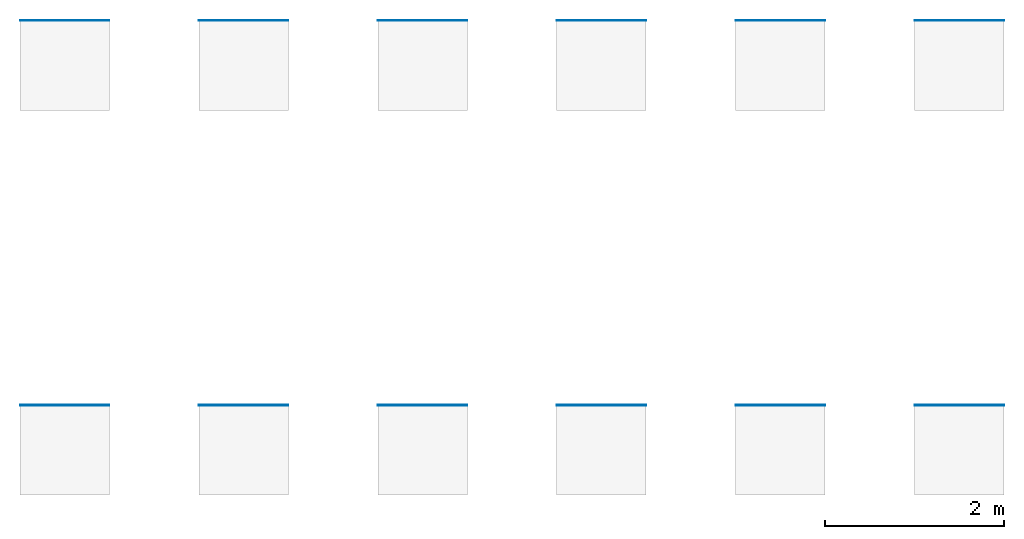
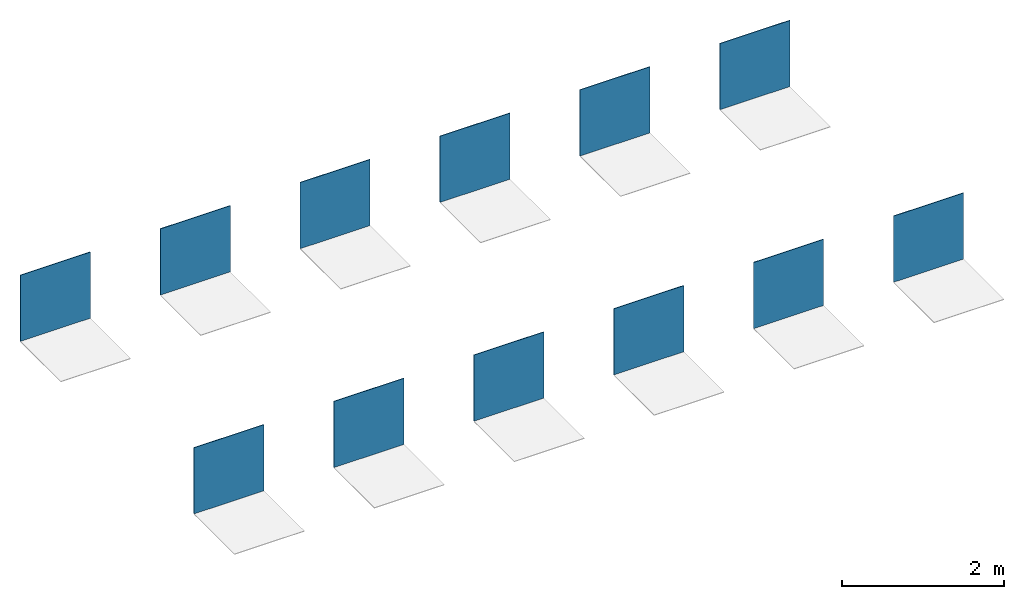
# One storey, part 1 of 2: 12 walls.
"""IFC2X3 building model written with IfcOpenShell, lengths in millimetres."""

from ifc_helpers import new_model, entity, si_unit, converted_unit, derived_unit, direction, frame, frame_2d, origin, place, context, subcontext, project, spatial, rectangle, extrude, material, layer, layer_set, layer_usage, type_object, element, save


model = new_model("IFC2X3")

# Units and contexts
model_context = context("Model", 3, precision=0.01, world=origin(), true_north=direction((6.12303176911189e-17, 1.0)))
body_context = subcontext(model_context, "Body", "Model", "MODEL_VIEW")
ifc_project = project(units=[si_unit("LENGTHUNIT", "METRE", prefix="MILLI"), si_unit("AREAUNIT", "SQUARE_METRE"), si_unit("VOLUMEUNIT", "CUBIC_METRE"), converted_unit("PLANEANGLEUNIT", "DEGREE", entity("IfcRatioMeasure", 0.0174532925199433), si_unit("PLANEANGLEUNIT", "RADIAN"), dimensions=[0, 0, 0, 0, 0, 0, 0]), si_unit("MASSUNIT", "GRAM", prefix="KILO"), derived_unit("MASSDENSITYUNIT", [(si_unit("MASSUNIT", "GRAM", prefix="KILO"), 1), (si_unit("LENGTHUNIT", "METRE"), -3)]), derived_unit("MOMENTOFINERTIAUNIT", [(si_unit("LENGTHUNIT", "METRE"), 4)]), si_unit("TIMEUNIT", "SECOND"), si_unit("FREQUENCYUNIT", "HERTZ"), si_unit("THERMODYNAMICTEMPERATUREUNIT", "DEGREE_CELSIUS"), derived_unit("THERMALTRANSMITTANCEUNIT", [(si_unit("MASSUNIT", "GRAM", prefix="KILO"), 1), (si_unit("THERMODYNAMICTEMPERATUREUNIT", "KELVIN"), -1), (si_unit("TIMEUNIT", "SECOND"), -3)]), derived_unit("VOLUMETRICFLOWRATEUNIT", [(si_unit("LENGTHUNIT", "METRE"), 3), (si_unit("TIMEUNIT", "SECOND"), -1)]), si_unit("ELECTRICCURRENTUNIT", "AMPERE"), si_unit("ELECTRICVOLTAGEUNIT", "VOLT"), si_unit("POWERUNIT", "WATT"), si_unit("FORCEUNIT", "NEWTON", prefix="KILO"), si_unit("ILLUMINANCEUNIT", "LUX"), si_unit("LUMINOUSFLUXUNIT", "LUMEN"), si_unit("LUMINOUSINTENSITYUNIT", "CANDELA"), derived_unit("USERDEFINED", [(si_unit("MASSUNIT", "GRAM", prefix="KILO"), -1), (si_unit("LENGTHUNIT", "METRE"), -2), (si_unit("TIMEUNIT", "SECOND"), 3), (si_unit("LUMINOUSFLUXUNIT", "LUMEN"), 1)]), derived_unit("LINEARVELOCITYUNIT", [(si_unit("LENGTHUNIT", "METRE"), 1), (si_unit("TIMEUNIT", "SECOND"), -1)]), si_unit("PRESSUREUNIT", "PASCAL"), derived_unit("USERDEFINED", [(si_unit("LENGTHUNIT", "METRE"), -2), (si_unit("MASSUNIT", "GRAM", prefix="KILO"), 1), (si_unit("TIMEUNIT", "SECOND"), -2)]), derived_unit("LINEARFORCEUNIT", [(si_unit("MASSUNIT", "GRAM", prefix="KILO"), 1), (si_unit("LENGTHUNIT", "METRE"), 1), (si_unit("TIMEUNIT", "SECOND"), -2), (si_unit("LENGTHUNIT", "METRE"), -1)]), derived_unit("PLANARFORCEUNIT", [(si_unit("MASSUNIT", "GRAM", prefix="KILO"), 1), (si_unit("LENGTHUNIT", "METRE"), 1), (si_unit("TIMEUNIT", "SECOND"), -2), (si_unit("LENGTHUNIT", "METRE"), -2)])], contexts=[model_context])

# Site, building, storey
site_placement = place(None, origin())
site = spatial("IfcSite", under=ifc_project, at=site_placement, Name="Default", CompositionType="ELEMENT")
building_placement = place(site_placement, origin())
building = spatial("IfcBuilding", under=site, at=building_placement, CompositionType="ELEMENT")
storey_placement = place(building_placement, origin())
storey = spatial("IfcBuildingStorey", under=building, at=storey_placement, Name="Level 1", CompositionType="ELEMENT", Elevation=0.0)

# Walls
ifc_material_1 = material(Name="REVIGRÉS-OMNISTONE-HEXAGON-60x60-MATTRECT-BONE")
ifc_layer_1 = layer(ifc_material_1, 9.8)
ifc_layer_set_1 = layer_set([ifc_layer_1], Name="Basic Wall:REVIGRÉS-OMNISTONE-HEXAGON-60X60-MATTRECT-BONE")
ifc_layer_usage_1 = layer_usage(ifc_layer_set_1, "AXIS2", "POSITIVE", -4.9)
wall_type_1 = type_object("IfcWallType", Name="Basic Wall:REVIGRÉS-OMNISTONE-HEXAGON-60X60-MATTRECT-BONE", PredefinedType="STANDARD", material=ifc_layer_set_1)
wall_1_placement = place(storey_placement, frame((60108.2238843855, 18816.1034685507, 0.0)))
element("IfcWallStandardCase", 1, at=wall_1_placement, inside=storey, type_object=wall_type_1, material=ifc_layer_usage_1, Name="Basic Wall:REVIGRÉS-OMNISTONE-HEXAGON-60X60-MATTRECT-BONE", ObjectType="Basic Wall:REVIGRÉS-OMNISTONE-HEXAGON-60X60-MATTRECT-BONE", context=body_context, shape_type="SweptSolid", body=[
    extrude(rectangle(XDim=999.999999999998, YDim=9.8000000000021, at=frame_2d((499.999999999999, 5.41344746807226e-13), x_axis=(-1.0, 0.0))), origin(), (0.0, 0.0, 1.0), 1000.0),
])
ifc_material_2 = material(Name="REVIGRÉS-OMNISTONE-HEXAGON-60x60-SOFT-BONE")
ifc_layer_2 = layer(ifc_material_2, 9.8)
ifc_layer_set_2 = layer_set([ifc_layer_2], Name="Basic Wall:REVIGRÉS-OMNISTONE-HEXAGON-60X60-SOFT-BONE")
ifc_layer_usage_2 = layer_usage(ifc_layer_set_2, "AXIS2", "POSITIVE", -4.9)
wall_type_2 = type_object("IfcWallType", Name="Basic Wall:REVIGRÉS-OMNISTONE-HEXAGON-60X60-SOFT-BONE", PredefinedType="STANDARD", material=ifc_layer_set_2)
wall_2_placement = place(storey_placement, frame((62108.2238843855, 18816.1034685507, 0.0)))
element("IfcWallStandardCase", 2, at=wall_2_placement, inside=storey, type_object=wall_type_2, material=ifc_layer_usage_2, Name="Basic Wall:REVIGRÉS-OMNISTONE-HEXAGON-60X60-SOFT-BONE", ObjectType="Basic Wall:REVIGRÉS-OMNISTONE-HEXAGON-60X60-SOFT-BONE", context=body_context, shape_type="SweptSolid", body=[
    extrude(rectangle(XDim=999.999999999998, YDim=9.8000000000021, at=frame_2d((499.999999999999, 5.41344746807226e-13), x_axis=(-1.0, 0.0))), origin(), (0.0, 0.0, 1.0), 1000.0),
])
ifc_material_3 = material(Name="REVIGRÉS-OMNISTONE-HEXAGON-60x60-MATTRECT-ICE")
ifc_layer_3 = layer(ifc_material_3, 9.8)
ifc_layer_set_3 = layer_set([ifc_layer_3], Name="Basic Wall:REVIGRÉS-OMNISTONE-HEXAGON-60X60-MATTRECT-ICE")
ifc_layer_usage_3 = layer_usage(ifc_layer_set_3, "AXIS2", "POSITIVE", -4.9)
wall_type_3 = type_object("IfcWallType", Name="Basic Wall:REVIGRÉS-OMNISTONE-HEXAGON-60X60-MATTRECT-ICE", PredefinedType="STANDARD", material=ifc_layer_set_3)
wall_3_placement = place(storey_placement, frame((64108.2238843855, 18816.1034685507, 0.0)))
element("IfcWallStandardCase", 3, at=wall_3_placement, inside=storey, type_object=wall_type_3, material=ifc_layer_usage_3, Name="Basic Wall:REVIGRÉS-OMNISTONE-HEXAGON-60X60-MATTRECT-ICE", ObjectType="Basic Wall:REVIGRÉS-OMNISTONE-HEXAGON-60X60-MATTRECT-ICE", context=body_context, shape_type="SweptSolid", body=[
    extrude(rectangle(XDim=999.999999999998, YDim=9.8000000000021, at=frame_2d((499.999999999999, 5.41344746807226e-13), x_axis=(-1.0, 0.0))), origin(), (0.0, 0.0, 1.0), 1000.0),
])
ifc_material_4 = material(Name="REVIGRÉS-OMNISTONE-HEXAGON-60x60-SOFT-ICE")
ifc_layer_4 = layer(ifc_material_4, 9.8)
ifc_layer_set_4 = layer_set([ifc_layer_4], Name="Basic Wall:REVIGRÉS-OMNISTONE-HEXAGON-60X60-SOFT-ICE")
ifc_layer_usage_4 = layer_usage(ifc_layer_set_4, "AXIS2", "POSITIVE", -4.9)
wall_type_4 = type_object("IfcWallType", Name="Basic Wall:REVIGRÉS-OMNISTONE-HEXAGON-60X60-SOFT-ICE", PredefinedType="STANDARD", material=ifc_layer_set_4)
wall_4_placement = place(storey_placement, frame((66108.2238843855, 18816.1034685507, 0.0)))
element("IfcWallStandardCase", 4, at=wall_4_placement, inside=storey, type_object=wall_type_4, material=ifc_layer_usage_4, Name="Basic Wall:REVIGRÉS-OMNISTONE-HEXAGON-60X60-SOFT-ICE", ObjectType="Basic Wall:REVIGRÉS-OMNISTONE-HEXAGON-60X60-SOFT-ICE", context=body_context, shape_type="SweptSolid", body=[
    extrude(rectangle(XDim=999.999999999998, YDim=9.8000000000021, at=frame_2d((499.999999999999, 5.41344746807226e-13), x_axis=(-1.0, 0.0))), origin(), (0.0, 0.0, 1.0), 1000.0),
])
ifc_material_5 = material(Name="REVIGRÉS-OMNISTONE-HEXAGON-60x60-MATTRECT-IRON")
ifc_layer_5 = layer(ifc_material_5, 9.8)
ifc_layer_set_5 = layer_set([ifc_layer_5], Name="Basic Wall:REVIGRÉS-OMNISTONE-HEXAGON-60X60-MATTRECT-IRON")
ifc_layer_usage_5 = layer_usage(ifc_layer_set_5, "AXIS2", "POSITIVE", -4.9)
wall_type_5 = type_object("IfcWallType", Name="Basic Wall:REVIGRÉS-OMNISTONE-HEXAGON-60X60-MATTRECT-IRON", PredefinedType="STANDARD", material=ifc_layer_set_5)
wall_5_placement = place(storey_placement, frame((68108.2238843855, 18816.1034685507, 0.0)))
element("IfcWallStandardCase", 5, at=wall_5_placement, inside=storey, type_object=wall_type_5, material=ifc_layer_usage_5, Name="Basic Wall:REVIGRÉS-OMNISTONE-HEXAGON-60X60-MATTRECT-IRON", ObjectType="Basic Wall:REVIGRÉS-OMNISTONE-HEXAGON-60X60-MATTRECT-IRON", context=body_context, shape_type="SweptSolid", body=[
    extrude(rectangle(XDim=999.999999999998, YDim=9.8000000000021, at=frame_2d((499.999999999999, 5.41344746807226e-13), x_axis=(-1.0, 0.0))), origin(), (0.0, 0.0, 1.0), 1000.0),
])
ifc_material_6 = material(Name="REVIGRÉS-OMNISTONE-HEXAGON-60x60-SOFT-IRON")
ifc_layer_6 = layer(ifc_material_6, 9.8)
ifc_layer_set_6 = layer_set([ifc_layer_6], Name="Basic Wall:REVIGRÉS-OMNISTONE-HEXAGON-60X60-SOFT-IRON")
ifc_layer_usage_6 = layer_usage(ifc_layer_set_6, "AXIS2", "POSITIVE", -4.9)
wall_type_6 = type_object("IfcWallType", Name="Basic Wall:REVIGRÉS-OMNISTONE-HEXAGON-60X60-SOFT-IRON", PredefinedType="STANDARD", material=ifc_layer_set_6)
wall_6_placement = place(storey_placement, frame((70108.2238843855, 18816.1034685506, 0.0)))
element("IfcWallStandardCase", 6, at=wall_6_placement, inside=storey, type_object=wall_type_6, material=ifc_layer_usage_6, Name="Basic Wall:REVIGRÉS-OMNISTONE-HEXAGON-60X60-SOFT-IRON", ObjectType="Basic Wall:REVIGRÉS-OMNISTONE-HEXAGON-60X60-SOFT-IRON", context=body_context, shape_type="SweptSolid", body=[
    extrude(rectangle(XDim=999.999999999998, YDim=9.8000000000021, at=frame_2d((499.999999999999, 5.41344746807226e-13), x_axis=(-1.0, 0.0))), origin(), (0.0, 0.0, 1.0), 1000.0),
])
ifc_material_7 = material(Name="REVIGRÉS-OMNISTONE-HEXAGON-60x60-MATTRECT-JET")
ifc_layer_7 = layer(ifc_material_7, 9.8)
ifc_layer_set_7 = layer_set([ifc_layer_7], Name="Basic Wall:REVIGRÉS-OMNISTONE-HEXAGON-60X60-MATTRECT-JET")
ifc_layer_usage_7 = layer_usage(ifc_layer_set_7, "AXIS2", "POSITIVE", -4.9)
wall_type_7 = type_object("IfcWallType", Name="Basic Wall:REVIGRÉS-OMNISTONE-HEXAGON-60X60-MATTRECT-JET", PredefinedType="STANDARD", material=ifc_layer_set_7)
wall_7_placement = place(storey_placement, frame((60108.2238843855, 14516.1034685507, 0.0)))
element("IfcWallStandardCase", 7, at=wall_7_placement, inside=storey, type_object=wall_type_7, material=ifc_layer_usage_7, Name="Basic Wall:REVIGRÉS-OMNISTONE-HEXAGON-60X60-MATTRECT-JET", ObjectType="Basic Wall:REVIGRÉS-OMNISTONE-HEXAGON-60X60-MATTRECT-JET", context=body_context, shape_type="SweptSolid", body=[
    extrude(rectangle(XDim=999.999999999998, YDim=9.8000000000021, at=frame_2d((499.999999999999, 5.41344746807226e-13), x_axis=(-1.0, 0.0))), origin(), (0.0, 0.0, 1.0), 1000.0),
])
ifc_material_8 = material(Name="REVIGRÉS-OMNISTONE-HEXAGON-60x60-SOFT-JET")
ifc_layer_8 = layer(ifc_material_8, 9.8)
ifc_layer_set_8 = layer_set([ifc_layer_8], Name="Basic Wall:REVIGRÉS-OMNISTONE-HEXAGON-60X60-SOFT-JET")
ifc_layer_usage_8 = layer_usage(ifc_layer_set_8, "AXIS2", "POSITIVE", -4.9)
wall_type_8 = type_object("IfcWallType", Name="Basic Wall:REVIGRÉS-OMNISTONE-HEXAGON-60X60-SOFT-JET", PredefinedType="STANDARD", material=ifc_layer_set_8)
wall_8_placement = place(storey_placement, frame((62108.2238843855, 14516.1034685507, 0.0)))
element("IfcWallStandardCase", 8, at=wall_8_placement, inside=storey, type_object=wall_type_8, material=ifc_layer_usage_8, Name="Basic Wall:REVIGRÉS-OMNISTONE-HEXAGON-60X60-SOFT-JET", ObjectType="Basic Wall:REVIGRÉS-OMNISTONE-HEXAGON-60X60-SOFT-JET", context=body_context, shape_type="SweptSolid", body=[
    extrude(rectangle(XDim=999.999999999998, YDim=9.8000000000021, at=frame_2d((499.999999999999, 5.41344746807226e-13), x_axis=(-1.0, 0.0))), origin(), (0.0, 0.0, 1.0), 1000.0),
])
ifc_material_9 = material(Name="REVIGRÉS-OMNISTONE-HEXAGON-60x60-MATTRECT-PLATINA")
ifc_layer_9 = layer(ifc_material_9, 9.8)
ifc_layer_set_9 = layer_set([ifc_layer_9], Name="Basic Wall:REVIGRÉS-OMNISTONE-HEXAGON-60X60-MATTRECT-PLATINA")
ifc_layer_usage_9 = layer_usage(ifc_layer_set_9, "AXIS2", "POSITIVE", -4.9)
wall_type_9 = type_object("IfcWallType", Name="Basic Wall:REVIGRÉS-OMNISTONE-HEXAGON-60X60-MATTRECT-PLATINA", PredefinedType="STANDARD", material=ifc_layer_set_9)
wall_9_placement = place(storey_placement, frame((64108.2238843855, 14516.1034685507, 0.0)))
element("IfcWallStandardCase", 9, at=wall_9_placement, inside=storey, type_object=wall_type_9, material=ifc_layer_usage_9, Name="Basic Wall:REVIGRÉS-OMNISTONE-HEXAGON-60X60-MATTRECT-PLATINA", ObjectType="Basic Wall:REVIGRÉS-OMNISTONE-HEXAGON-60X60-MATTRECT-PLATINA", context=body_context, shape_type="SweptSolid", body=[
    extrude(rectangle(XDim=999.999999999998, YDim=9.8000000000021, at=frame_2d((499.999999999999, 5.41344746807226e-13), x_axis=(-1.0, 0.0))), origin(), (0.0, 0.0, 1.0), 1000.0),
])
ifc_material_10 = material(Name="REVIGRÉS-OMNISTONE-HEXAGON-60x60-SOFT-PLATINA")
ifc_layer_10 = layer(ifc_material_10, 9.8)
ifc_layer_set_10 = layer_set([ifc_layer_10], Name="Basic Wall:REVIGRÉS-OMNISTONE-HEXAGON-60X60-SOFT-PLATINA")
ifc_layer_usage_10 = layer_usage(ifc_layer_set_10, "AXIS2", "POSITIVE", -4.9)
wall_type_10 = type_object("IfcWallType", Name="Basic Wall:REVIGRÉS-OMNISTONE-HEXAGON-60X60-SOFT-PLATINA", PredefinedType="STANDARD", material=ifc_layer_set_10)
wall_10_placement = place(storey_placement, frame((66108.2238843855, 14516.1034685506, 0.0)))
element("IfcWallStandardCase", 10, at=wall_10_placement, inside=storey, type_object=wall_type_10, material=ifc_layer_usage_10, Name="Basic Wall:REVIGRÉS-OMNISTONE-HEXAGON-60X60-SOFT-PLATINA", ObjectType="Basic Wall:REVIGRÉS-OMNISTONE-HEXAGON-60X60-SOFT-PLATINA", context=body_context, shape_type="SweptSolid", body=[
    extrude(rectangle(XDim=999.999999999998, YDim=9.8000000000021, at=frame_2d((499.999999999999, 5.41344746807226e-13), x_axis=(-1.0, 0.0))), origin(), (0.0, 0.0, 1.0), 1000.0),
])
ifc_material_11 = material(Name="REVIGRÉS-OMNISTONE-HEXAGON-60x60-MATTRECT-ROPE")
ifc_layer_11 = layer(ifc_material_11, 9.8)
ifc_layer_set_11 = layer_set([ifc_layer_11], Name="Basic Wall:REVIGRÉS-OMNISTONE-HEXAGON-60X60-MATTRECT-ROPE")
ifc_layer_usage_11 = layer_usage(ifc_layer_set_11, "AXIS2", "POSITIVE", -4.9)
wall_type_11 = type_object("IfcWallType", Name="Basic Wall:REVIGRÉS-OMNISTONE-HEXAGON-60X60-MATTRECT-ROPE", PredefinedType="STANDARD", material=ifc_layer_set_11)
wall_11_placement = place(storey_placement, frame((68108.2238843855, 14516.1034685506, 0.0)))
element("IfcWallStandardCase", 11, at=wall_11_placement, inside=storey, type_object=wall_type_11, material=ifc_layer_usage_11, Name="Basic Wall:REVIGRÉS-OMNISTONE-HEXAGON-60X60-MATTRECT-ROPE", ObjectType="Basic Wall:REVIGRÉS-OMNISTONE-HEXAGON-60X60-MATTRECT-ROPE", context=body_context, shape_type="SweptSolid", body=[
    extrude(rectangle(XDim=999.999999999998, YDim=9.8000000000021, at=frame_2d((499.999999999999, 5.41344746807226e-13), x_axis=(-1.0, 0.0))), origin(), (0.0, 0.0, 1.0), 1000.0),
])
ifc_material_12 = material(Name="REVIGRÉS-OMNISTONE-HEXAGON-60x60-SOFT-ROPE")
ifc_layer_12 = layer(ifc_material_12, 9.8)
ifc_layer_set_12 = layer_set([ifc_layer_12], Name="Basic Wall:REVIGRÉS-OMNISTONE-HEXAGON-60X60-SOFT-ROPE")
ifc_layer_usage_12 = layer_usage(ifc_layer_set_12, "AXIS2", "POSITIVE", -4.9)
wall_type_12 = type_object("IfcWallType", Name="Basic Wall:REVIGRÉS-OMNISTONE-HEXAGON-60X60-SOFT-ROPE", PredefinedType="STANDARD", material=ifc_layer_set_12)
wall_12_placement = place(storey_placement, frame((70108.2238843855, 14516.1034685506, 0.0)))
element("IfcWallStandardCase", 12, at=wall_12_placement, inside=storey, type_object=wall_type_12, material=ifc_layer_usage_12, Name="Basic Wall:REVIGRÉS-OMNISTONE-HEXAGON-60X60-SOFT-ROPE", ObjectType="Basic Wall:REVIGRÉS-OMNISTONE-HEXAGON-60X60-SOFT-ROPE", context=body_context, shape_type="SweptSolid", body=[
    extrude(rectangle(XDim=999.999999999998, YDim=9.8000000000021, at=frame_2d((499.999999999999, 5.41344746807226e-13), x_axis=(-1.0, 0.0))), origin(), (0.0, 0.0, 1.0), 1000.0),
])

save(model, "model.ifc")
